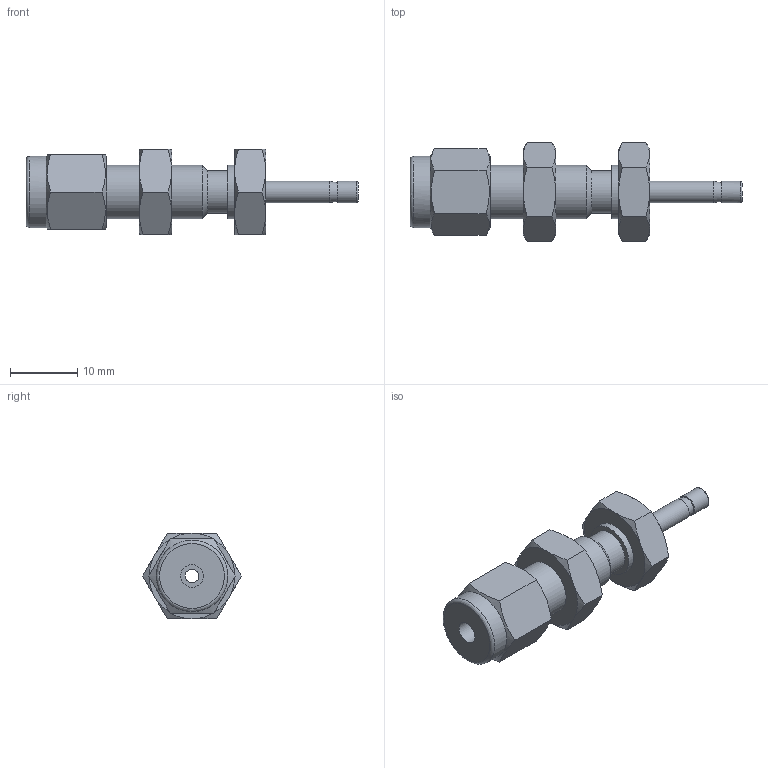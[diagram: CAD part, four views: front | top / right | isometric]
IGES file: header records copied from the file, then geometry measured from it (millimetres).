
Global section: file name: SRB-2-2; native system: Autodesk Inventor 2016; preprocessor: unknown; author: 배성훈,,11,0; organization: 20151111.080336; date: 20151113.104424; units: millimetre
Bounding box: 49.26 x 14.66 x 12.7 mm (x, y, z)
Volume: 3032.2 mm3; surface area: 2240.9 mm2
Topology: 1 solids, 1 shells, 67 faces, 163 edges, 106 vertices
Faces by surface type: bspline 67
